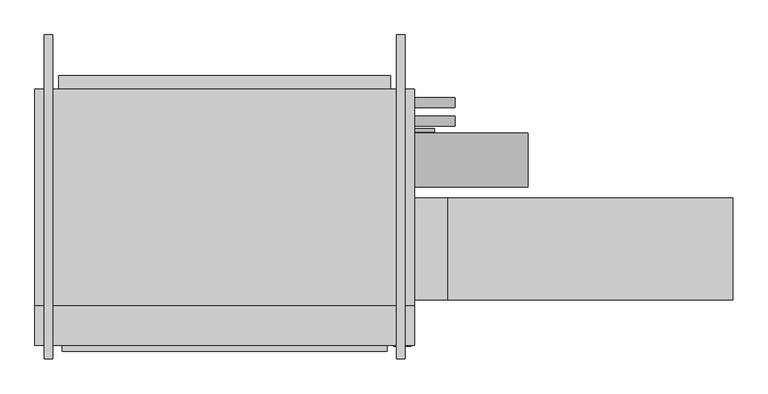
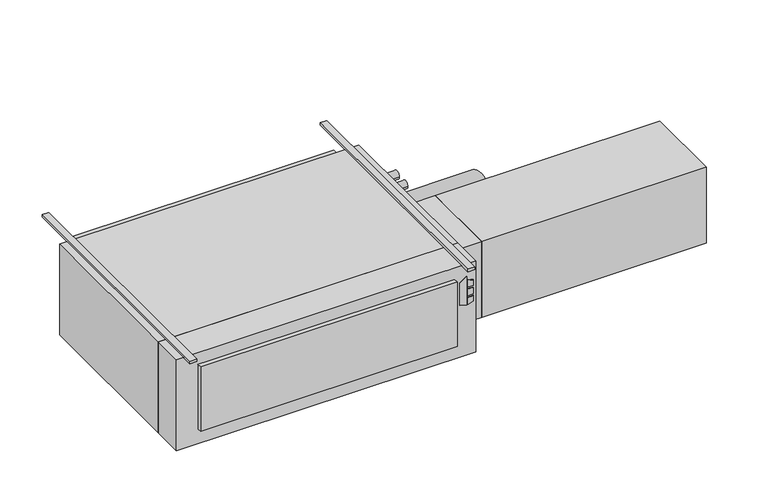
"""IFC4 building model written with IfcOpenShell, lengths in millimetres: proxy geometry."""

from ifc_helpers import new_model, si_unit, point, frame, frame_2d, origin, origin_with_axes, place, context, project, spatial, polyline, circle_curve, trimmed, segment, composite_curve, outline, extrude, source, transform, mapped, element, save


def mechanical_equipment_6029a46f(model_context):
    return source(origin(), model_context, "Body", "SweptSolid", [
        extrude(outline(polyline([(-193.2519297, 785.8868862), (-203.2, 818.0602728), (-61.0290756, 818.0602728), (-84.0510817, 785.8868862), (-193.2519297, 785.8868862)])), frame((0.0, -797.052, 0.0), z_axis=(0.0, 1.0, 0.0), x_axis=(0.0, 0.0, 1.0)), (0.0, 0.0, 1.0), 3.175),
        extrude(outline(polyline([(-114.2526443, 824.8186058), (-117.4550368, 850.9), (-88.2261958, 850.9), (-80.1617807, 824.8186058), (-114.2526443, 824.8186058)])), frame((0.0, -797.052, 0.0), z_axis=(0.0, 1.0, 0.0), x_axis=(0.0, 0.0, 1.0)), (0.0, 0.0, 1.0), 3.175),
        extrude(outline(polyline([(-166.1161712, 850.9), (-169.7816721, 824.8186058), (-203.2, 824.8186058), (-194.5657628, 850.9), (-166.1161712, 850.9)])), frame((0.0, -797.052, 0.0), z_axis=(0.0, 1.0, 0.0), x_axis=(0.0, 0.0, 1.0)), (0.0, 0.0, 1.0), 3.175),
        extrude(outline(polyline([(-126.8010097, 850.9), (-124.5191834, 824.8186058), (-160.4567319, 824.8186058), (-157.7154669, 850.9), (-126.8010097, 850.9)])), frame((0.0, -797.052, 0.0), z_axis=(0.0, 1.0, 0.0), x_axis=(0.0, 0.0, 1.0)), (0.0, 0.0, 1.0), 3.175),
        extrude(outline(polyline([(863.6, -793.877), (-558.8, -793.877), (-558.8, -644.525), (863.6, -644.525), (863.6, -793.877)])), frame((0.0, 0.0, -457.2), z_axis=(0.0, 0.0, 1.0), x_axis=(1.0, 0.0, 0.0)), (0.0, 0.0, 1.0), 457.2),
        extrude(outline(polyline([(762.0, -816.229), (-457.2, -816.229), (-457.2, -793.877), (762.0, -793.877), (762.0, -816.229)])), frame((0.0, 0.0, -381.0), z_axis=(0.0, 0.0, 1.0), x_axis=(1.0, 0.0, 0.0)), (0.0, 0.0, 1.0), 323.85),
        extrude(outline(polyline([(2057.4, -241.3), (2057.4, -622.3), (990.6, -622.3), (990.6, -241.3), (2057.4, -241.3)])), frame((0.0, 0.0, -431.8), z_axis=(0.0, 0.0, 1.0), x_axis=(1.0, 0.0, 0.0)), (0.0, 0.0, 1.0), 381.0),
        extrude(outline(polyline([(990.6, -241.3), (990.6, -622.3), (863.6, -622.3), (863.6, -241.3), (990.6, -241.3)])), frame((0.0, 0.0, -431.8), z_axis=(0.0, 0.0, 1.0), x_axis=(1.0, 0.0, 0.0)), (0.0, 0.0, 1.0), 381.0),
        extrude(outline(composite_curve([segment(trimmed(circle_curve(frame_2d((117.475, -171.45)), 19.05), [point((136.525, -171.45))], [point((98.425, -171.45))], False, "CARTESIAN"), True, "CONTINUOUS"), segment(trimmed(circle_curve(frame_2d((117.475, -171.45)), 19.05), [point((98.425, -171.45))], [point((136.525, -171.45))], False, "CARTESIAN"), True, "CONTINUOUS")], self_intersect=False)), frame((863.6, 0.0, 0.0), z_axis=(1.0, 0.0, 0.0), x_axis=(0.0, 1.0, 0.0)), (0.0, 0.0, 1.0), 152.4),
        extrude(outline(composite_curve([segment(trimmed(circle_curve(frame_2d((47.625, -177.8)), 19.05), [point((66.675, -177.8))], [point((28.575, -177.8))], False, "CARTESIAN"), True, "CONTINUOUS"), segment(trimmed(circle_curve(frame_2d((47.625, -177.8)), 19.05), [point((28.575, -177.8))], [point((66.675, -177.8))], False, "CARTESIAN"), True, "CONTINUOUS")], self_intersect=False)), frame((863.6, 0.0, 0.0), z_axis=(1.0, 0.0, 0.0), x_axis=(0.0, 1.0, 0.0)), (0.0, 0.0, 1.0), 152.4),
        extrude(outline(composite_curve([segment(trimmed(circle_curve(frame_2d((-98.4896516, -228.6360165)), 101.6), [point((3.1103484, -228.6360165))], [point((-200.0896516, -228.6360165))], False, "CARTESIAN"), True, "CONTINUOUS"), segment(trimmed(circle_curve(frame_2d((-98.4896516, -228.6360165)), 101.6), [point((-200.0896516, -228.6360165))], [point((3.1103484, -228.6360165))], False, "CARTESIAN"), True, "CONTINUOUS")], self_intersect=False)), frame((863.6, 0.0, 0.0), z_axis=(1.0, 0.0, 0.0), x_axis=(0.0, 1.0, 0.0)), (0.0, 0.0, 1.0), 425.45),
        extrude(outline(composite_curve([segment(trimmed(circle_curve(frame_2d((12.7, -409.575)), 6.35), [point((19.05, -409.575))], [point((6.35, -409.575))], False, "CARTESIAN"), True, "CONTINUOUS"), segment(trimmed(circle_curve(frame_2d((12.7, -409.575)), 6.35), [point((6.35, -409.575))], [point((19.05, -409.575))], False, "CARTESIAN"), True, "CONTINUOUS")], self_intersect=False)), frame((863.6, 0.0, 0.0), z_axis=(1.0, 0.0, 0.0), x_axis=(0.0, 1.0, 0.0)), (0.0, 0.0, 1.0), 76.2),
        extrude(outline(polyline([(863.6, 168.275), (863.6, -644.525), (-558.8, -644.525), (-558.8, 168.275), (863.6, 168.275)])), frame((0.0, 0.0, -457.2), z_axis=(0.0, 0.0, 1.0), x_axis=(1.0, 0.0, 0.0)), (0.0, 0.0, 1.0), 457.2),
        extrude(outline(polyline([(-469.9, 219.075), (774.7, 219.075), (774.7, 168.275), (-469.9, 168.275), (-469.9, 219.075)])), frame((0.0, 0.0, -381.0), z_axis=(0.0, 0.0, 1.0), x_axis=(1.0, 0.0, 0.0)), (0.0, 0.0, 1.0), 355.6),
        extrude(outline(polyline([(-492.125, 371.475), (-492.125, -844.677), (-523.875, -844.677), (-523.875, 371.475), (-492.125, 371.475)])), origin_with_axes(), (0.0, 0.0, 1.0), 12.7),
        extrude(outline(polyline([(828.675, 371.475), (828.675, -844.677), (796.925, -844.677), (796.925, 371.475), (828.675, 371.475)])), origin_with_axes(), (0.0, 0.0, 1.0), 12.7),
    ])


if __name__ == "__main__":
    model = new_model("IFC4")
    model_context = context("Model", 3, world=origin())
    ifc_project = project(units=[si_unit("LENGTHUNIT", "METRE", prefix="MILLI")], contexts=[model_context])
    site = spatial("IfcSite", under=ifc_project)
    building = spatial("IfcBuilding", under=site)
    placement = place(None, origin())
    mechanical_equipment_shape = mechanical_equipment_6029a46f(model_context)
    element("IfcBuildingElementProxy", 1, Name="High_Capacity_Horizontal_Cabinet_Fan_Coil_Unit_-_HTY_-_IEC_-_2 Pipe, Elec Heat_RH Side_2022 : Size 20 - 277v/60Hz/1Ph - 8/0 Coil 10.0kW - 8\" AirIn", ObjectType="High_Capacity_Horizontal_Cabinet_Fan_Coil_Unit_-_HTY_-_IEC_-_2 Pipe, Elec Heat_RH Side_2022 : Size 20 - 277v/60Hz/1Ph - 8/0 Coil 10.0kW - 8\" AirIn", at=placement, inside=building, context=model_context, shape_type="MappedRepresentation", body=[
        mapped(mechanical_equipment_shape, transform((0.0, 0.0, 0.0), x_axis=(1.0, 0.0, 0.0), y_axis=(0.0, 1.0, 0.0), z_axis=(0.0, 0.0, 1.0))),
    ])
    save(model, "model.ifc")
